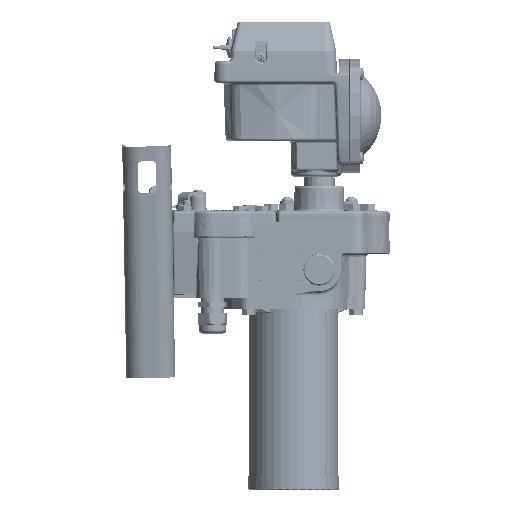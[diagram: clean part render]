
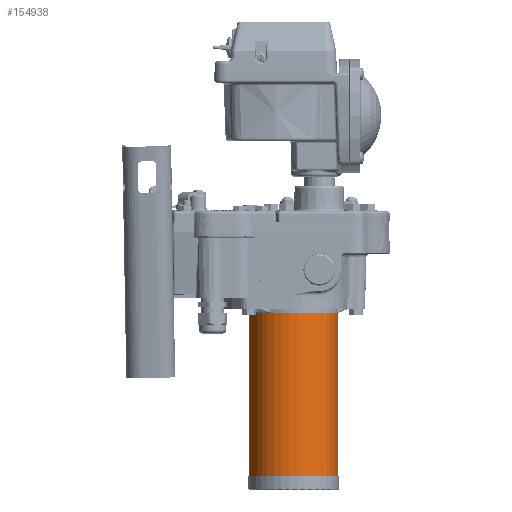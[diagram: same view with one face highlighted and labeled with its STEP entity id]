
A CAD part, front view. The second image highlights one B-rep face of the part: STEP entity #154938.
In plain terms, the highlighted cylindrical face has radius 38.976 mm (diameter 77.953 mm), a partial arc.
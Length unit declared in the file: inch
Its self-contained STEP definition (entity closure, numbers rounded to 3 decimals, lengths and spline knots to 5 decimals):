
#6736=LINE('',#292528,#17944);
#6737=LINE('',#292531,#17945);
#6741=LINE('',#292538,#17949);
#6742=LINE('',#292543,#17950);
#6743=LINE('',#292547,#17951);
#6744=LINE('',#292550,#17952);
#17944=VECTOR('',#190900,0.3937);
#17945=VECTOR('',#190903,0.3937);
#17949=VECTOR('',#190909,0.3937);
#17950=VECTOR('',#190914,0.3937);
#17951=VECTOR('',#190917,0.3937);
#17952=VECTOR('',#190920,0.3937);
#32253=CIRCLE('',#166016,1.5345);
#32254=CIRCLE('',#166017,1.5345);
#32255=CIRCLE('',#166022,1.5345);
#32256=CIRCLE('',#166023,1.5345);
#32257=CIRCLE('',#166024,1.5345);
#32258=CIRCLE('',#166025,1.5345);
#36345=CYLINDRICAL_SURFACE('',#166021,1.5345);
#41505=FACE_OUTER_BOUND('',#50799,.T.);
#50799=EDGE_LOOP('',(#115888,#115889,#115890,#115891,#115892,#115893,#115894,
#115895,#115896,#115897,#115898,#115899));
#66227=VERTEX_POINT('',#292511);
#66229=VERTEX_POINT('',#292514);
#66231=VERTEX_POINT('',#292518);
#66232=VERTEX_POINT('',#292520);
#66234=VERTEX_POINT('',#292526);
#66235=VERTEX_POINT('',#292530);
#66237=VERTEX_POINT('',#292536);
#66238=VERTEX_POINT('',#292540);
#66239=VERTEX_POINT('',#292542);
#66240=VERTEX_POINT('',#292544);
#66241=VERTEX_POINT('',#292546);
#66242=VERTEX_POINT('',#292548);
#83954=EDGE_CURVE('',#66229,#66227,#32253,.T.);
#83957=EDGE_CURVE('',#66232,#66231,#32254,.T.);
#83961=EDGE_CURVE('',#66231,#66234,#6736,.T.);
#83962=EDGE_CURVE('',#66235,#66229,#6737,.T.);
#83966=EDGE_CURVE('',#66227,#66237,#6741,.T.);
#83967=EDGE_CURVE('',#66237,#66238,#32255,.T.);
#83968=EDGE_CURVE('',#66238,#66239,#6742,.T.);
#83969=EDGE_CURVE('',#66239,#66240,#32256,.T.);
#83970=EDGE_CURVE('',#66240,#66241,#6743,.T.);
#83971=EDGE_CURVE('',#66241,#66242,#32257,.T.);
#83972=EDGE_CURVE('',#66242,#66232,#6744,.T.);
#83973=EDGE_CURVE('',#66235,#66234,#32258,.T.);
#115888=ORIENTED_EDGE('',*,*,#83962,.T.);
#115889=ORIENTED_EDGE('',*,*,#83954,.T.);
#115890=ORIENTED_EDGE('',*,*,#83966,.T.);
#115891=ORIENTED_EDGE('',*,*,#83967,.T.);
#115892=ORIENTED_EDGE('',*,*,#83968,.T.);
#115893=ORIENTED_EDGE('',*,*,#83969,.T.);
#115894=ORIENTED_EDGE('',*,*,#83970,.T.);
#115895=ORIENTED_EDGE('',*,*,#83971,.T.);
#115896=ORIENTED_EDGE('',*,*,#83972,.T.);
#115897=ORIENTED_EDGE('',*,*,#83957,.T.);
#115898=ORIENTED_EDGE('',*,*,#83961,.T.);
#115899=ORIENTED_EDGE('',*,*,#83973,.F.);
#154938=ADVANCED_FACE('',(#41505),#36345,.T.);
#166016=AXIS2_PLACEMENT_3D('',#292515,#190889,#190890);
#166017=AXIS2_PLACEMENT_3D('',#292521,#190893,#190894);
#166021=AXIS2_PLACEMENT_3D('',#292539,#190910,#190911);
#166022=AXIS2_PLACEMENT_3D('',#292541,#190912,#190913);
#166023=AXIS2_PLACEMENT_3D('',#292545,#190915,#190916);
#166024=AXIS2_PLACEMENT_3D('',#292549,#190918,#190919);
#166025=AXIS2_PLACEMENT_3D('',#292551,#190921,#190922);
#190889=DIRECTION('center_axis',(0.,0.,
1.));
#190890=DIRECTION('ref_axis',(0.71,0.704,0.));
#190893=DIRECTION('center_axis',(0.,0.,
1.));
#190894=DIRECTION('ref_axis',(0.71,0.704,0.));
#190900=DIRECTION('',(0.,0.,-1.));
#190903=DIRECTION('',(0.,0.,1.));
#190909=DIRECTION('',(0.,0.,1.));
#190910=DIRECTION('center_axis',(0.,0.,
1.));
#190911=DIRECTION('ref_axis',(0.71,0.704,0.));
#190912=DIRECTION('center_axis',(0.,0.,
-1.));
#190913=DIRECTION('ref_axis',(0.71,0.704,0.));
#190914=DIRECTION('',(0.,0.,1.));
#190915=DIRECTION('center_axis',(0.,0.,
-1.));
#190916=DIRECTION('ref_axis',(0.71,0.704,0.));
#190917=DIRECTION('',(0.,0.,-1.));
#190918=DIRECTION('center_axis',(0.,0.,
-1.));
#190919=DIRECTION('ref_axis',(0.71,0.704,0.));
#190920=DIRECTION('',(0.,0.,-1.));
#190921=DIRECTION('center_axis',(0.,0.,
-1.));
#190922=DIRECTION('ref_axis',(0.71,0.704,0.));
#292511=CARTESIAN_POINT('',(6.21374,-1.09672,-8.31415));
#292514=CARTESIAN_POINT('',(6.20317,-1.10699,-8.31415));
#292515=CARTESIAN_POINT('Origin',(5.13925,-0.0012,
-8.31415));
#292518=CARTESIAN_POINT('',(6.23597,-1.07447,-8.31415));
#292520=CARTESIAN_POINT('',(6.22561,-1.08495,-8.31415));
#292521=CARTESIAN_POINT('Origin',(5.13925,-0.0012,
-8.31415));
#292526=CARTESIAN_POINT('',(6.23597,-1.07447,-8.69415));
#292528=CARTESIAN_POINT('',(6.23597,-1.07447,-8.69415));
#292530=CARTESIAN_POINT('',(6.20317,-1.10699,-8.69415));
#292531=CARTESIAN_POINT('',(6.20317,-1.10699,-8.69415));
#292536=CARTESIAN_POINT('',(6.21374,-1.09672,-3.45615));
#292538=CARTESIAN_POINT('',(6.21374,-1.09672,-8.69415));
#292539=CARTESIAN_POINT('Origin',(5.13925,-0.0012,
-8.69415));
#292540=CARTESIAN_POINT('',(6.20317,-1.10699,-3.45615));
#292541=CARTESIAN_POINT('Origin',(5.13925,-0.0012,
-3.45615));
#292542=CARTESIAN_POINT('',(6.20317,-1.10699,-3.07615));
#292543=CARTESIAN_POINT('',(6.20317,-1.10699,-8.69415));
#292544=CARTESIAN_POINT('',(6.23597,-1.07447,-3.07615));
#292545=CARTESIAN_POINT('Origin',(5.13925,-0.0012,-3.07615));
#292546=CARTESIAN_POINT('',(6.23597,-1.07447,-3.45615));
#292547=CARTESIAN_POINT('',(6.23597,-1.07447,-8.69415));
#292548=CARTESIAN_POINT('',(6.22561,-1.08495,-3.45615));
#292549=CARTESIAN_POINT('Origin',(5.13925,-0.0012,
-3.45615));
#292550=CARTESIAN_POINT('',(6.22561,-1.08495,-8.69415));
#292551=CARTESIAN_POINT('Origin',(5.13925,-0.0012,
-8.69415));
